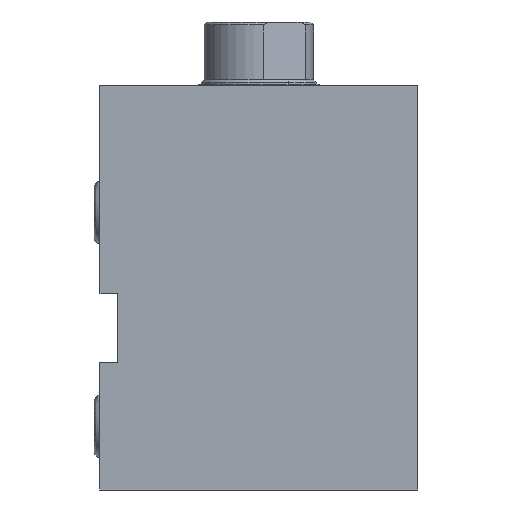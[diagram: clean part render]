
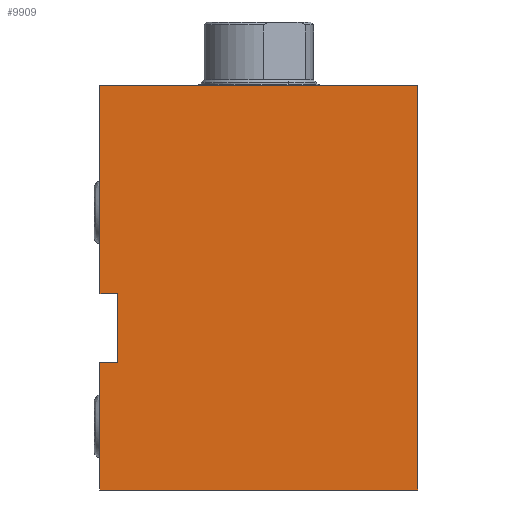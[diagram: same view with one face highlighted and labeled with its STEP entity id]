
A CAD part, left-side view. The second image highlights one B-rep face of the part: STEP entity #9909.
In plain terms, the highlighted planar face has unit normal (-1, 0, 0).
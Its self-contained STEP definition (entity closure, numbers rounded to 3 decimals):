
#124 = ORIENTED_EDGE ( 'NONE', *, *, #2212, .T. ) ;
#137 = CARTESIAN_POINT ( 'NONE',  ( 0., 0., 70. ) ) ;
#146 = VECTOR ( 'NONE', #12910, 1000. ) ;
#194 = VECTOR ( 'NONE', #915, 1000. ) ;
#268 = ORIENTED_EDGE ( 'NONE', *, *, #12453, .T. ) ;
#518 = VERTEX_POINT ( 'NONE', #5528 ) ;
#598 = CARTESIAN_POINT ( 'NONE',  ( 0., 55., 22. ) ) ;
#852 = CARTESIAN_POINT ( 'NONE',  ( 0., 52., 22. ) ) ;
#915 = DIRECTION ( 'NONE',  ( 0., 1., 0. ) ) ;
#1087 = DIRECTION ( 'NONE',  ( 0., 0., -1. ) ) ;
#1186 = CARTESIAN_POINT ( 'NONE',  ( 0., 55., 70. ) ) ;
#2212 = EDGE_CURVE ( 'NONE', #518, #12955, #2873, .T. ) ;
#2269 = ORIENTED_EDGE ( 'NONE', *, *, #4515, .T. ) ;
#2763 = LINE ( 'NONE', #9954, #194 ) ;
#2873 = LINE ( 'NONE', #852, #146 ) ;
#3543 = VERTEX_POINT ( 'NONE', #3983 ) ;
#3546 = ORIENTED_EDGE ( 'NONE', *, *, #10810, .F. ) ;
#3686 = VECTOR ( 'NONE', #4362, 1000. ) ;
#3812 = VERTEX_POINT ( 'NONE', #9164 ) ;
#3946 = DIRECTION ( 'NONE',  ( 0., 0., -1. ) ) ;
#3983 = CARTESIAN_POINT ( 'NONE',  ( 0., 0., 70. ) ) ;
#4021 = CARTESIAN_POINT ( 'NONE',  ( 0., 55., 70. ) ) ;
#4139 = CARTESIAN_POINT ( 'NONE',  ( 0., 55., 34. ) ) ;
#4259 = LINE ( 'NONE', #4356, #9437 ) ;
#4356 = CARTESIAN_POINT ( 'NONE',  ( 0., 0., 70. ) ) ;
#4362 = DIRECTION ( 'NONE',  ( 0., 0., 1. ) ) ;
#4515 = EDGE_CURVE ( 'NONE', #8886, #6380, #11475, .T. ) ;
#4529 = LINE ( 'NONE', #137, #9560 ) ;
#4576 = ORIENTED_EDGE ( 'NONE', *, *, #10197, .F. ) ;
#4642 = CARTESIAN_POINT ( 'NONE',  ( 0., 0., 70. ) ) ;
#5509 = DIRECTION ( 'NONE',  ( 0., 0., -1. ) ) ;
#5528 = CARTESIAN_POINT ( 'NONE',  ( 0., 52., 22. ) ) ;
#5807 = VECTOR ( 'NONE', #3946, 1000. ) ;
#6011 = VECTOR ( 'NONE', #12819, 1000. ) ;
#6145 = EDGE_CURVE ( 'NONE', #8886, #3543, #4259, .T. ) ;
#6380 = VERTEX_POINT ( 'NONE', #4139 ) ;
#6593 = CARTESIAN_POINT ( 'NONE',  ( 0., 55., 70. ) ) ;
#6640 = VERTEX_POINT ( 'NONE', #9678 ) ;
#6650 = VECTOR ( 'NONE', #11048, 1000. ) ;
#6977 = ORIENTED_EDGE ( 'NONE', *, *, #6145, .F. ) ;
#7254 = CARTESIAN_POINT ( 'NONE',  ( 0., 52., 34. ) ) ;
#7876 = EDGE_CURVE ( 'NONE', #3543, #9759, #4529, .T. ) ;
#7944 = CARTESIAN_POINT ( 'NONE',  ( 0., 0., 0. ) ) ;
#8590 = PLANE ( 'NONE',  #8906 ) ;
#8733 = EDGE_LOOP ( 'NONE', ( #3546, #124, #268, #9030, #11468, #6977, #2269, #4576 ) ) ;
#8886 = VERTEX_POINT ( 'NONE', #1186 ) ;
#8906 = AXIS2_PLACEMENT_3D ( 'NONE', #4642, #12540, #5509 ) ;
#9030 = ORIENTED_EDGE ( 'NONE', *, *, #11829, .T. ) ;
#9164 = CARTESIAN_POINT ( 'NONE',  ( 0., 52., 34. ) ) ;
#9437 = VECTOR ( 'NONE', #11301, 1000. ) ;
#9560 = VECTOR ( 'NONE', #1087, 1000. ) ;
#9678 = CARTESIAN_POINT ( 'NONE',  ( 0., 55., 0. ) ) ;
#9759 = VERTEX_POINT ( 'NONE', #7944 ) ;
#9909 = ADVANCED_FACE ( 'NONE', ( #9994 ), #8590, .F. ) ;
#9954 = CARTESIAN_POINT ( 'NONE',  ( 0., 52., 34. ) ) ;
#9994 = FACE_OUTER_BOUND ( 'NONE', #8733, .T. ) ;
#10197 = EDGE_CURVE ( 'NONE', #3812, #6380, #2763, .T. ) ;
#10731 = CARTESIAN_POINT ( 'NONE',  ( 0., 0., 0. ) ) ;
#10810 = EDGE_CURVE ( 'NONE', #518, #3812, #12319, .T. ) ;
#11048 = DIRECTION ( 'NONE',  ( 0., 0., -1. ) ) ;
#11215 = LINE ( 'NONE', #10731, #6011 ) ;
#11301 = DIRECTION ( 'NONE',  ( 0., -1., 0. ) ) ;
#11468 = ORIENTED_EDGE ( 'NONE', *, *, #7876, .F. ) ;
#11475 = LINE ( 'NONE', #6593, #5807 ) ;
#11829 = EDGE_CURVE ( 'NONE', #6640, #9759, #11215, .T. ) ;
#11962 = LINE ( 'NONE', #4021, #6650 ) ;
#12319 = LINE ( 'NONE', #7254, #3686 ) ;
#12453 = EDGE_CURVE ( 'NONE', #12955, #6640, #11962, .T. ) ;
#12540 = DIRECTION ( 'NONE',  ( 1., 0., 0. ) ) ;
#12819 = DIRECTION ( 'NONE',  ( 0., -1., 0. ) ) ;
#12910 = DIRECTION ( 'NONE',  ( 0., 1., 0. ) ) ;
#12955 = VERTEX_POINT ( 'NONE', #598 ) ;
